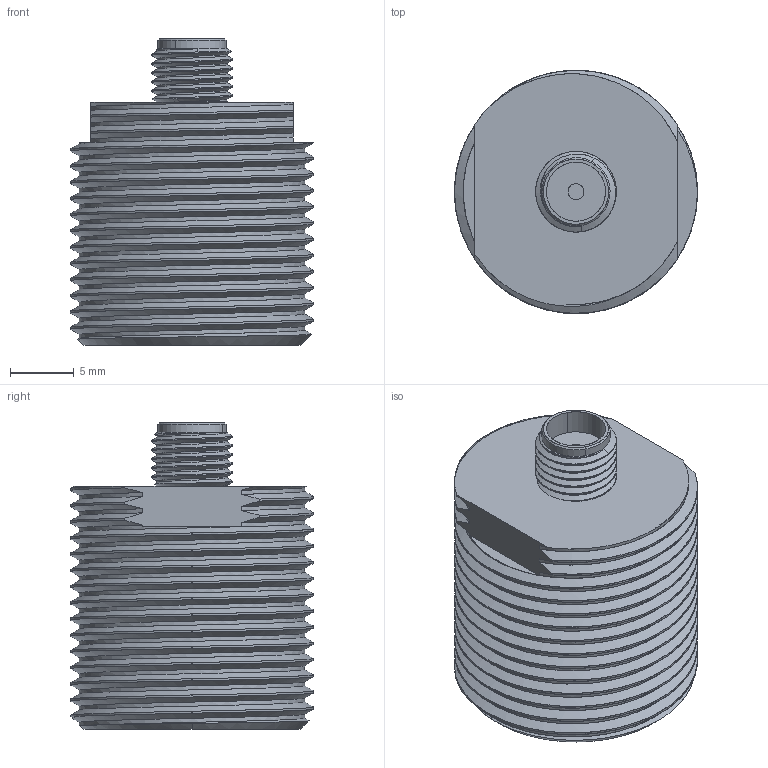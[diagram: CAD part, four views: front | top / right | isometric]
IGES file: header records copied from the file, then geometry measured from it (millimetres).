
Start section: SolidWorks IGES file using analytic representation for surfaces
Global section: file name: C:\Documents and Settings\Administrator\My Documents\EDI\3D\finished sensors\4S1.IGS; native system: SolidWorks 2008; preprocessor: SolidWorks 2008; author: Administrator; date: 100304.193427; units: millimetre
Bounding box: 19.05 x 19.05 x 24.05 mm (x, y, z)
Surface area: 2569.5 mm2 (no closed solid volume)
Topology: 0 solids, 0 shells, 272 faces, 2729 edges, 2729 vertices
Faces by surface type: revolution 177, bspline 95
